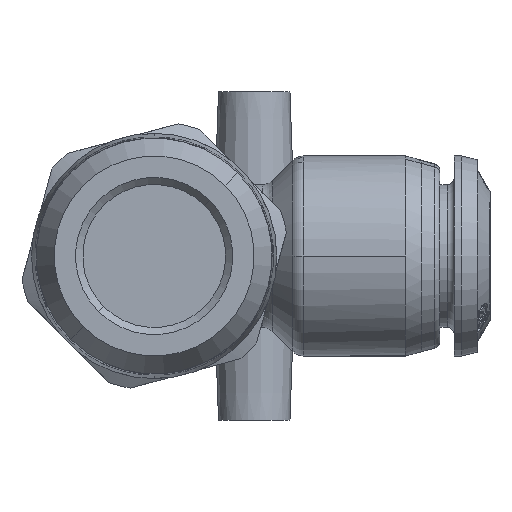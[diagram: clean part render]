
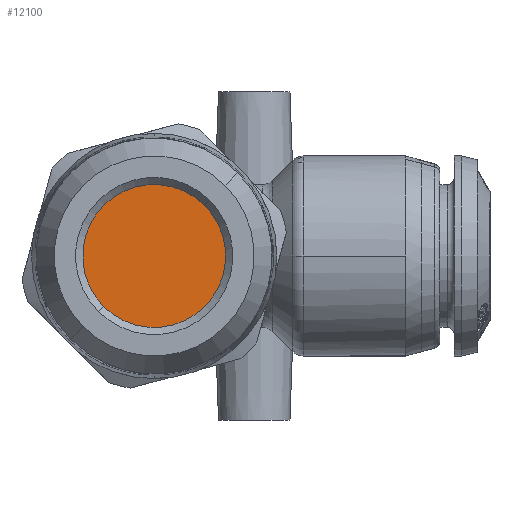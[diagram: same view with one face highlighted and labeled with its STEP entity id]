
A CAD part, left-side view. The second image highlights one B-rep face of the part: STEP entity #12100.
In plain terms, the highlighted planar face has unit normal (-1, 0, 0).
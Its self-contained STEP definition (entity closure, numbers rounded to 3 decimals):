
#1972 = EDGE_CURVE ( 'NONE', #35283, #35289, #31199, .T. ) ;
#6974 = ORIENTED_EDGE ( 'NONE', *, *, #1972, .F. ) ;
#6975 = ORIENTED_EDGE ( 'NONE', *, *, #53534, .F. ) ;
#10923 = CARTESIAN_POINT ( 'NONE',  ( 24.383, 7.845, 0. ) ) ;
#10924 = DIRECTION ( 'NONE',  ( 1., 0., 0. ) ) ;
#10925 = DIRECTION ( 'NONE',  ( 0., -1., 0. ) ) ;
#12100 = ADVANCED_FACE ( 'NONE', ( #52683 ), #28631, .T. ) ;
#15037 = CIRCLE ( 'NONE', #15407, 5. ) ;
#15407 = AXIS2_PLACEMENT_3D ( 'NONE', #10923, #10924, #10925 ) ;
#15992 = CARTESIAN_POINT ( 'NONE',  ( 24.383, 11.383, -3.533 ) ) ;
#15998 = CARTESIAN_POINT ( 'NONE',  ( 24.383, 4.307, 3.533 ) ) ;
#28631 = PLANE ( 'NONE',  #44929 ) ;
#28648 = CARTESIAN_POINT ( 'NONE',  ( 24.383, 2.039, 0. ) ) ;
#28650 = DIRECTION ( 'NONE',  ( -1., 0., 0. ) ) ;
#28652 = DIRECTION ( 'NONE',  ( 0., -1., 0. ) ) ;
#31199 = CIRCLE ( 'NONE', #50023, 5. ) ;
#35283 = VERTEX_POINT ( 'NONE', #15992 ) ;
#35289 = VERTEX_POINT ( 'NONE', #15998 ) ;
#39181 = EDGE_LOOP ( 'NONE', ( #6974, #6975 ) ) ;
#44929 = AXIS2_PLACEMENT_3D ( 'NONE', #28648, #28650, #28652 ) ;
#50023 = AXIS2_PLACEMENT_3D ( 'NONE', #50652, #50653, #50654 ) ;
#50652 = CARTESIAN_POINT ( 'NONE',  ( 24.383, 7.845, 0. ) ) ;
#50653 = DIRECTION ( 'NONE',  ( 1., 0., 0. ) ) ;
#50654 = DIRECTION ( 'NONE',  ( 0., -1., 0. ) ) ;
#52683 = FACE_OUTER_BOUND ( 'NONE', #39181, .T. ) ;
#53534 = EDGE_CURVE ( 'NONE', #35289, #35283, #15037, .T. ) ;
